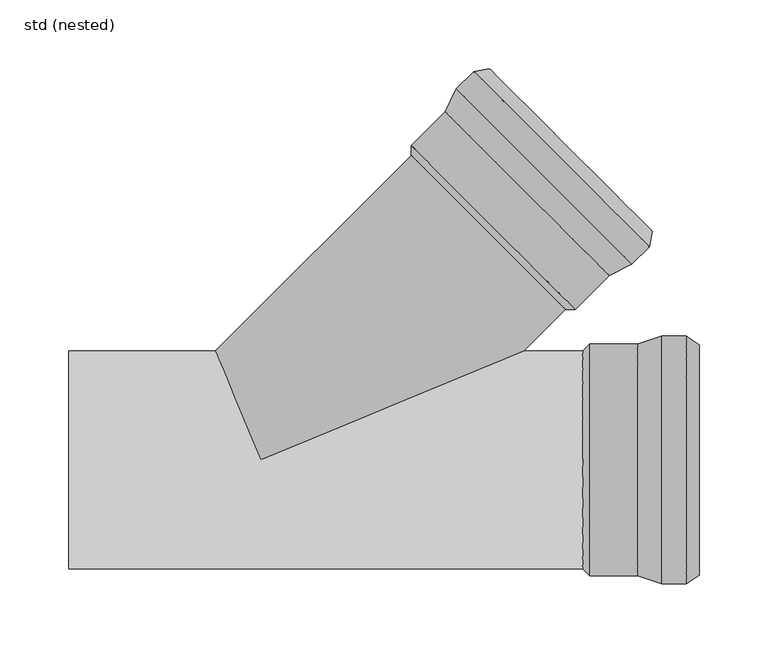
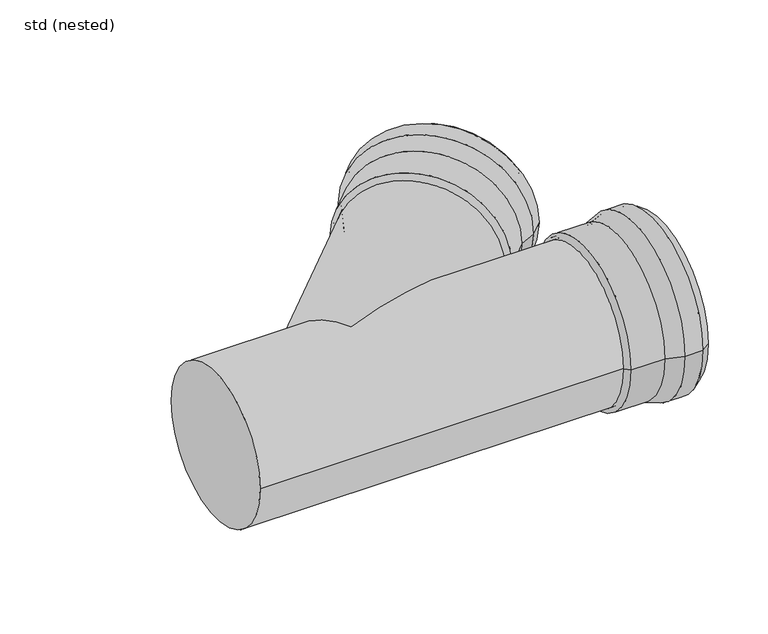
"""IFC4 building model written with IfcOpenShell, lengths in millimetres: pipe fitting geometry, ZZZ_do not use_PIF_ST_UN_GM-X single branch_ACO : std (nested)."""

from ifc_helpers import new_model, si_unit, frame, origin, place, context, project, spatial, polyline, circle_curve, ellipse_curve, source, transform, mapped, element, save
from ifc_brep_helpers import plane_surface, cylinder_surface, revolved_surface, advanced_brep


def std_nested_c3804b22(model_context):
    return source(origin(), model_context, "Body", "AdvancedBrep", [
        advanced_brep(
        [(292.5, -90.5, 0.0), (292.5, 90.5, 0.0), (310.5, 90.5, 0.0), (310.5, -90.5, 0.0), (275.0, -84.5, 0.0), (275.0, 84.5, 0.0), (320.0, 84.0, 0.0), (320.0, -84.0, 0.0), (240.0, -84.5, 0.0), (240.0, 84.5, 0.0), (235.0, -79.5, 0.0), (235.0, 79.5, 0.0), (240.0, -79.5, 0.0), (240.0, 79.5, 0.0), (275.4166667, -82.0, 0.0), (275.4166667, 82.0, 0.0), (240.0, 82.0, 0.0), (240.0, -82.0, 0.0), (292.9166667, -88.0, 0.0), (292.9166667, 88.0, 0.0), (309.7265906, -88.0, 0.0), (309.7265906, 88.0, 0.0), (318.5882902, -81.9367318, 0.0), (318.5882902, 81.9367318, 0.0)],
        [
            (0, 1, circle_curve(frame((292.5, 0.0, 0.0), z_axis=(1.0, 0.0, 0.0), x_axis=(0.0, 1.0, 0.0)), 90.5)),
            (1, 2),
            (2, 3, circle_curve(frame((310.5, 0.0, 0.0), z_axis=(-1.0, 0.0, 0.0), x_axis=(0.0, 1.0, 0.0)), 90.5)),
            (3, 0),
            (1, 0, circle_curve(frame((292.5, 0.0, 0.0), z_axis=(1.0, 0.0, 0.0), x_axis=(0.0, 1.0, 0.0)), 90.5)),
            (3, 2, circle_curve(frame((310.5, 0.0, 0.0), z_axis=(-1.0, 0.0, 0.0), x_axis=(0.0, 1.0, 0.0)), 90.5)),
            (4, 5, circle_curve(frame((275.0, 0.0, 0.0), z_axis=(1.0, 0.0, 0.0), x_axis=(0.0, 1.0, 0.0)), 84.5)),
            (5, 1),
            (0, 4),
            (5, 4, circle_curve(frame((275.0, 0.0, 0.0), z_axis=(1.0, 0.0, 0.0), x_axis=(0.0, 1.0, 0.0)), 84.5)),
            (2, 6),
            (6, 7, circle_curve(frame((320.0, 0.0, 0.0), z_axis=(-1.0, 0.0, 0.0), x_axis=(0.0, 1.0, 0.0)), 84.0)),
            (7, 3),
            (7, 6, circle_curve(frame((320.0, 0.0, 0.0), z_axis=(-1.0, 0.0, 0.0), x_axis=(0.0, 1.0, 0.0)), 84.0)),
            (8, 9, circle_curve(frame((240.0, 0.0, 0.0), z_axis=(1.0, 0.0, 0.0), x_axis=(0.0, 1.0, 0.0)), 84.5)),
            (9, 5),
            (4, 8),
            (9, 8, circle_curve(frame((240.0, 0.0, 0.0), z_axis=(1.0, 0.0, 0.0), x_axis=(0.0, 1.0, 0.0)), 84.5)),
            (10, 11, circle_curve(frame((235.0, 0.0, 0.0), z_axis=(1.0, 0.0, 0.0), x_axis=(0.0, 1.0, 0.0)), 79.5)),
            (11, 9),
            (8, 10),
            (11, 10, circle_curve(frame((235.0, 0.0, 0.0), z_axis=(1.0, 0.0, 0.0), x_axis=(0.0, 1.0, 0.0)), 79.5)),
            (12, 13, circle_curve(frame((240.0, 0.0, 0.0), z_axis=(1.0, 0.0, 0.0), x_axis=(0.0, 1.0, 0.0)), 79.5)),
            (13, 11),
            (10, 12),
            (13, 12, circle_curve(frame((240.0, 0.0, 0.0), z_axis=(1.0, 0.0, 0.0), x_axis=(0.0, 1.0, 0.0)), 79.5)),
            (14, 15, circle_curve(frame((275.4166667, 0.0, 0.0), z_axis=(1.0, 0.0, 0.0), x_axis=(0.0, 1.0, 0.0)), 82.0)),
            (15, 16),
            (16, 17, circle_curve(frame((240.0, 0.0, 0.0), z_axis=(-1.0, 0.0, 0.0), x_axis=(0.0, 1.0, 0.0)), 82.0)),
            (17, 14),
            (15, 14, circle_curve(frame((275.4166667, 0.0, 0.0), z_axis=(1.0, 0.0, 0.0), x_axis=(0.0, 1.0, 0.0)), 82.0)),
            (17, 16, circle_curve(frame((240.0, 0.0, 0.0), z_axis=(-1.0, 0.0, 0.0), x_axis=(0.0, 1.0, 0.0)), 82.0)),
            (18, 19, circle_curve(frame((292.9166667, 0.0, 0.0), z_axis=(1.0, 0.0, 0.0), x_axis=(0.0, 1.0, 0.0)), 88.0)),
            (19, 15),
            (14, 18),
            (19, 18, circle_curve(frame((292.9166667, 0.0, 0.0), z_axis=(1.0, 0.0, 0.0), x_axis=(0.0, 1.0, 0.0)), 88.0)),
            (20, 21, circle_curve(frame((309.7265906, 0.0, 0.0), z_axis=(1.0, 0.0, 0.0), x_axis=(0.0, 1.0, 0.0)), 88.0)),
            (21, 19),
            (18, 20),
            (21, 20, circle_curve(frame((309.7265906, 0.0, 0.0), z_axis=(1.0, 0.0, 0.0), x_axis=(0.0, 1.0, 0.0)), 88.0)),
            (22, 23, circle_curve(frame((318.5882902, 0.0, 0.0), z_axis=(1.0, 0.0, 0.0), x_axis=(0.0, 1.0, 0.0)), 81.9367318)),
            (23, 21),
            (20, 22),
            (23, 22, circle_curve(frame((318.5882902, 0.0, 0.0), z_axis=(1.0, 0.0, 0.0), x_axis=(0.0, 1.0, 0.0)), 81.9367318)),
            (6, 23),
            (22, 7),
            (16, 13),
            (12, 17),
        ],
        [
            cylinder_surface(frame((316.6444117, 0.0, 0.0), z_axis=(-1.0, 0.0, 0.0), x_axis=(0.0, 1.0, 0.0)), 90.5),
            revolved_surface(polyline([(292.5, 90.5, 0.0), (275.0, 84.5, 0.0)]), (316.6444117, 0.0, 0.0), (-1.0, 0.0, 0.0)),
            revolved_surface(polyline([(320.0, 84.0, 0.0), (310.5, 90.5, 0.0)]), (316.6444117, 0.0, 0.0), (-1.0, 0.0, 0.0)),
            cylinder_surface(frame((316.6444117, 0.0, 0.0), z_axis=(-1.0, 0.0, 0.0), x_axis=(0.0, 1.0, 0.0)), 84.5),
            revolved_surface(polyline([(240.0, 84.5, 0.0), (235.0, 79.5, 0.0)]), (316.6444117, 0.0, 0.0), (-1.0, 0.0, 0.0)),
            revolved_surface(polyline([(235.0, 79.5, 0.0), (240.0, 79.5, 0.0)]), (316.6444117, 0.0, 0.0), (-1.0, 0.0, 0.0)),
            revolved_surface(polyline([(240.0, 82.0, 0.0), (275.4166667, 82.0, 0.0)]), (316.6444117, 0.0, 0.0), (-1.0, 0.0, 0.0)),
            revolved_surface(polyline([(275.4166667, 82.0, 0.0), (292.9166667, 88.0, 0.0)]), (316.6444117, 0.0, 0.0), (-1.0, 0.0, 0.0)),
            revolved_surface(polyline([(292.9166667, 88.0, 0.0), (309.7265906, 88.0, 0.0)]), (316.6444117, 0.0, 0.0), (-1.0, 0.0, 0.0)),
            revolved_surface(polyline([(309.7265906, 88.0, 0.0), (318.5882902, 81.9367318, 0.0)]), (316.6444117, 0.0, 0.0), (-1.0, 0.0, 0.0)),
            revolved_surface(polyline([(318.5882902, 81.9367318, 0.0), (320.0, 84.0, 0.0)]), (316.6444117, 0.0, 0.0), (-1.0, 0.0, 0.0)),
            plane_surface(frame((240.0, 0.0, 0.0), z_axis=(1.0, 0.0, 0.0), x_axis=(0.0, 1.0, 0.0))),
        ],
        [
            (0, [[1, 2, 3, 4]]),
            (0, [[5, -4, 6, -2]]),
            (1, [[7, 8, -1, 9]]),
            (1, [[10, -9, -5, -8]]),
            (2, [[-3, 11, 12, 13]]),
            (2, [[-6, -13, 14, -11]]),
            (3, [[15, 16, -7, 17]]),
            (3, [[18, -17, -10, -16]]),
            (4, [[19, 20, -15, 21]]),
            (4, [[22, -21, -18, -20]]),
            (5, [[23, 24, -19, 25]]),
            (5, [[26, -25, -22, -24]]),
            (6, [[27, 28, 29, 30]]),
            (6, [[31, -30, 32, -28]]),
            (7, [[33, 34, -27, 35]]),
            (7, [[36, -35, -31, -34]]),
            (8, [[37, 38, -33, 39]]),
            (8, [[40, -39, -36, -38]]),
            (9, [[41, 42, -37, 43]]),
            (9, [[44, -43, -40, -42]]),
            (10, [[-12, 45, -41, 46]]),
            (10, [[-14, -46, -44, -45]]),
            (11, [[-29, 47, -23, 48]]),
            (11, [[-32, -48, -26, -47]]),
        ],
    ),
        advanced_brep(
        [(270.8218972, 142.8355698, 0.0), (142.8355698, 270.8218972, 0.0), (155.5634919, 283.5498193, 0.0), (283.5498193, 155.5634919, 0.0), (254.2048878, 134.7038418, 0.0), (134.7038418, 254.2048878, 0.0), (166.8772004, 285.6711396, 0.0), (285.6711396, 166.8772004, 0.0), (229.4561505, 109.9551045, 0.0), (109.9551045, 229.4561505, 0.0), (222.3850827, 109.9551045, 0.0), (109.9551045, 222.3850827, 0.0), (225.9206166, 113.4906384, 0.0), (113.4906384, 225.9206166, 0.0), (252.7317487, 136.7662366, 0.0), (136.7662366, 252.7317487, 0.0), (111.7228714, 227.6883835, 0.0), (227.6883835, 111.7228714, 0.0), (269.3487581, 144.8979646, 0.0), (144.8979646, 269.3487581, 0.0), (281.2351693, 156.7843758, 0.0), (156.7843758, 281.2351693, 0.0), (283.2139591, 167.3379217, 0.0), (167.3379217, 283.2139591, 0.0)],
        [
            (0, 1, circle_curve(frame((206.8287335, 206.8287335, 0.0), z_axis=(0.7071067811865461, 0.7071067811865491, 0.0), x_axis=(-0.7071067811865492, 0.7071067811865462, 0.0)), 90.5)),
            (1, 2),
            (2, 3, circle_curve(frame((219.5566556, 219.5566556, 0.0), z_axis=(-0.7071067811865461, -0.7071067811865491, 0.0), x_axis=(-0.7071067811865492, 0.7071067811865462, 0.0)), 90.5)),
            (3, 0),
            (1, 0, circle_curve(frame((206.8287335, 206.8287335, 0.0), z_axis=(0.7071067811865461, 0.7071067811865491, 0.0), x_axis=(-0.7071067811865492, 0.7071067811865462, 0.0)), 90.5)),
            (3, 2, circle_curve(frame((219.5566556, 219.5566556, 0.0), z_axis=(-0.7071067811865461, -0.7071067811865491, 0.0), x_axis=(-0.7071067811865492, 0.7071067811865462, 0.0)), 90.5)),
            (4, 5, circle_curve(frame((194.4543648, 194.4543648, 0.0), z_axis=(0.7071067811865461, 0.7071067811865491, 0.0), x_axis=(-0.7071067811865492, 0.7071067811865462, 0.0)), 84.5)),
            (5, 1),
            (0, 4),
            (5, 4, circle_curve(frame((194.4543648, 194.4543648, 0.0), z_axis=(0.7071067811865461, 0.7071067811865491, 0.0), x_axis=(-0.7071067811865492, 0.7071067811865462, 0.0)), 84.5)),
            (2, 6),
            (6, 7, circle_curve(frame((226.27417, 226.27417, 0.0), z_axis=(-0.7071067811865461, -0.7071067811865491, 0.0), x_axis=(-0.7071067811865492, 0.7071067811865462, 0.0)), 84.0)),
            (7, 3),
            (7, 6, circle_curve(frame((226.27417, 226.27417, 0.0), z_axis=(-0.7071067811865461, -0.7071067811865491, 0.0), x_axis=(-0.7071067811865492, 0.7071067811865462, 0.0)), 84.0)),
            (8, 9, circle_curve(frame((169.7056275, 169.7056275, 0.0), z_axis=(0.7071067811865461, 0.7071067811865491, 0.0), x_axis=(-0.7071067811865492, 0.7071067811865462, 0.0)), 84.5)),
            (9, 5),
            (4, 8),
            (9, 8, circle_curve(frame((169.7056275, 169.7056275, 0.0), z_axis=(0.7071067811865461, 0.7071067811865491, 0.0), x_axis=(-0.7071067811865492, 0.7071067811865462, 0.0)), 84.5)),
            (10, 11, circle_curve(frame((166.1700936, 166.1700936, 0.0), z_axis=(0.7071067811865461, 0.7071067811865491, 0.0), x_axis=(-0.7071067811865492, 0.7071067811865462, 0.0)), 79.5)),
            (11, 9),
            (8, 10),
            (11, 10, circle_curve(frame((166.1700936, 166.1700936, 0.0), z_axis=(0.7071067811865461, 0.7071067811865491, 0.0), x_axis=(-0.7071067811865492, 0.7071067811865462, 0.0)), 79.5)),
            (12, 13, circle_curve(frame((169.7056275, 169.7056275, 0.0), z_axis=(0.7071067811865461, 0.7071067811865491, 0.0), x_axis=(-0.7071067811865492, 0.7071067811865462, 0.0)), 79.5)),
            (13, 11),
            (10, 12),
            (13, 12, circle_curve(frame((169.7056275, 169.7056275, 0.0), z_axis=(0.7071067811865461, 0.7071067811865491, 0.0), x_axis=(-0.7071067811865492, 0.7071067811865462, 0.0)), 79.5)),
            (14, 15, circle_curve(frame((194.7489927, 194.7489927, 0.0), z_axis=(0.7071067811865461, 0.7071067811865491, 0.0), x_axis=(-0.7071067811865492, 0.7071067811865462, 0.0)), 82.0)),
            (15, 16),
            (16, 17, circle_curve(frame((169.7056275, 169.7056275, 0.0), z_axis=(-0.7071067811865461, -0.7071067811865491, 0.0), x_axis=(-0.7071067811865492, 0.7071067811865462, 0.0)), 82.0)),
            (17, 14),
            (15, 14, circle_curve(frame((194.7489927, 194.7489927, 0.0), z_axis=(0.7071067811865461, 0.7071067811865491, 0.0), x_axis=(-0.7071067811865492, 0.7071067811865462, 0.0)), 82.0)),
            (17, 16, circle_curve(frame((169.7056275, 169.7056275, 0.0), z_axis=(-0.7071067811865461, -0.7071067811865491, 0.0), x_axis=(-0.7071067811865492, 0.7071067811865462, 0.0)), 82.0)),
            (18, 19, circle_curve(frame((207.1233613, 207.1233613, 0.0), z_axis=(0.7071067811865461, 0.7071067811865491, 0.0), x_axis=(-0.7071067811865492, 0.7071067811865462, 0.0)), 88.0)),
            (19, 15),
            (14, 18),
            (19, 18, circle_curve(frame((207.1233613, 207.1233613, 0.0), z_axis=(0.7071067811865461, 0.7071067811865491, 0.0), x_axis=(-0.7071067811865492, 0.7071067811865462, 0.0)), 88.0)),
            (20, 21, circle_curve(frame((219.0097725, 219.0097725, 0.0), z_axis=(0.7071067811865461, 0.7071067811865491, 0.0), x_axis=(-0.7071067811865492, 0.7071067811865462, 0.0)), 88.0)),
            (21, 19),
            (18, 20),
            (21, 20, circle_curve(frame((219.0097725, 219.0097725, 0.0), z_axis=(0.7071067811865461, 0.7071067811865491, 0.0), x_axis=(-0.7071067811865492, 0.7071067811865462, 0.0)), 88.0)),
            (22, 23, circle_curve(frame((225.2759404, 225.2759404, 0.0), z_axis=(0.7071067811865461, 0.7071067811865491, 0.0), x_axis=(-0.7071067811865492, 0.7071067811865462, 0.0)), 81.9367318)),
            (23, 21),
            (20, 22),
            (23, 22, circle_curve(frame((225.2759404, 225.2759404, 0.0), z_axis=(0.7071067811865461, 0.7071067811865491, 0.0), x_axis=(-0.7071067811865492, 0.7071067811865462, 0.0)), 81.9367318)),
            (6, 23),
            (22, 7),
            (16, 13),
            (12, 17),
        ],
        [
            cylinder_surface(frame((223.9014107, 223.9014107, 0.0), z_axis=(-0.7071067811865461, -0.7071067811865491, 0.0), x_axis=(-0.7071067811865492, 0.7071067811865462, 0.0)), 90.5),
            revolved_surface(polyline([(142.8355698, 270.8218972, 0.0), (134.7038418, 254.2048878, 0.0)]), (223.9014107, 223.9014107, 0.0), (-0.7071067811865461, -0.7071067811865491, 0.0)),
            revolved_surface(polyline([(166.8772004, 285.6711396, 0.0), (155.5634919, 283.5498193, 0.0)]), (223.9014107, 223.9014107, 0.0), (-0.7071067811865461, -0.7071067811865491, 0.0)),
            cylinder_surface(frame((223.9014107, 223.9014107, 0.0), z_axis=(-0.7071067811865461, -0.7071067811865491, 0.0), x_axis=(-0.7071067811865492, 0.7071067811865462, 0.0)), 84.5),
            revolved_surface(polyline([(109.9551045, 229.4561505, 0.0), (109.9551045, 222.3850827, 0.0)]), (223.9014107, 223.9014107, 0.0), (-0.7071067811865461, -0.7071067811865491, 0.0)),
            revolved_surface(polyline([(109.9551044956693, 222.38508270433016, 0.0), (113.49063839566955, 225.92061660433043, 0.0)]), (223.9014107, 223.9014107, 0.0), (-0.7071067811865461, -0.7071067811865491, 0.0)),
            revolved_surface(polyline([(111.72287139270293, 227.68838350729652, 0.0), (136.766236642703, 252.7317487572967, 0.0)]), (223.9014107, 223.9014107, 0.0), (-0.7071067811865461, -0.7071067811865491, 0.0)),
            revolved_surface(polyline([(136.7662366, 252.7317487, 0.0), (144.8979646, 269.3487581, 0.0)]), (223.9014107, 223.9014107, 0.0), (-0.7071067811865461, -0.7071067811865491, 0.0)),
            revolved_surface(polyline([(144.8979645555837, 269.34875804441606, 0.0), (156.78437580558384, 281.2351692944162, 0.0)]), (223.9014107, 223.9014107, 0.0), (-0.7071067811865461, -0.7071067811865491, 0.0)),
            revolved_surface(polyline([(156.7843758, 281.2351693, 0.0), (167.3379217, 283.2139591, 0.0)]), (223.9014107, 223.9014107, 0.0), (-0.7071067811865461, -0.7071067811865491, 0.0)),
            revolved_surface(polyline([(167.3379217, 283.2139591, 0.0), (166.8772004, 285.6711396, 0.0)]), (223.9014107, 223.9014107, 0.0), (-0.7071067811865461, -0.7071067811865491, 0.0)),
            plane_surface(frame((169.7056275, 169.7056275, 0.0), z_axis=(0.7071067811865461, 0.7071067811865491, 0.0), x_axis=(-0.7071067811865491, 0.7071067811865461, 0.0))),
        ],
        [
            (0, [[1, 2, 3, 4]]),
            (0, [[5, -4, 6, -2]]),
            (1, [[7, 8, -1, 9]]),
            (1, [[10, -9, -5, -8]]),
            (2, [[-3, 11, 12, 13]]),
            (2, [[-6, -13, 14, -11]]),
            (3, [[15, 16, -7, 17]]),
            (3, [[18, -17, -10, -16]]),
            (4, [[19, 20, -15, 21]]),
            (4, [[22, -21, -18, -20]]),
            (5, [[23, 24, -19, 25]]),
            (5, [[26, -25, -22, -24]]),
            (6, [[27, 28, 29, 30]]),
            (6, [[31, -30, 32, -28]]),
            (7, [[33, 34, -27, 35]]),
            (7, [[36, -35, -31, -34]]),
            (8, [[37, 38, -33, 39]]),
            (8, [[40, -39, -36, -38]]),
            (9, [[41, 42, -37, 43]]),
            (9, [[44, -43, -40, -42]]),
            (10, [[-12, 45, -41, 46]]),
            (10, [[-14, -46, -44, -45]]),
            (11, [[-29, 47, -23, 48]]),
            (11, [[-32, -48, -26, -47]]),
        ],
    ),
        advanced_brep(
        [(240.0, -79.5, 0.0), (240.0, 79.5, 0.0), (-140.0, -79.5, 0.0), (-140.0, 79.5, 0.0), (-32.9299782, 79.5, 0.0), (0.0, 0.0, -79.5), (191.9299782, 79.5, 0.0), (0.0, 0.0, 79.5), (225.9206166, 113.4906384, 0.0), (113.4906384, 225.9206166, 0.0)],
        [
            (0, 1, circle_curve(frame((240.0, 0.0, 0.0), z_axis=(1.0, 0.0, 0.0), x_axis=(0.0, 1.0, 0.0)), 79.5)),
            (1, 0, circle_curve(frame((240.0, 0.0, 0.0), z_axis=(1.0, 0.0, 0.0), x_axis=(0.0, 1.0, 0.0)), 79.5)),
            (2, 3, circle_curve(frame((-140.0, 0.0, 0.0), z_axis=(-1.0, 0.0, 0.0), x_axis=(0.0, 1.0, 0.0)), 79.5)),
            (3, 2, circle_curve(frame((-140.0, 0.0, 0.0), z_axis=(-1.0, 0.0, 0.0), x_axis=(0.0, 1.0, 0.0)), 79.5)),
            (0, 2),
            (3, 4),
            (4, 5, ellipse_curve(frame((0.0, 0.0, 0.0), z_axis=(-0.9238795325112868, -0.38268343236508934, 0.0), x_axis=(0.38268343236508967, -0.9238795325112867, 0.0)), 86.0501799, 79.5)),
            (5, 6, ellipse_curve(frame((0.0, 0.0, 0.0), z_axis=(0.3826834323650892, -0.9238795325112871, 0.0), x_axis=(0.9238795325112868, 0.3826834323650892, 0.0)), 207.7435114, 79.5)),
            (6, 1),
            (6, 7, ellipse_curve(frame((0.0, 0.0, 0.0), z_axis=(0.3826834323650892, -0.9238795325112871, 0.0), x_axis=(0.9238795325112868, 0.3826834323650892, 0.0)), 207.7435114, 79.5)),
            (7, 4, ellipse_curve(frame((0.0, 0.0, 0.0), z_axis=(-0.9238795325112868, -0.38268343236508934, 0.0), x_axis=(0.38268343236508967, -0.9238795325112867, 0.0)), 86.0501799, 79.5)),
            (8, 9, circle_curve(frame((169.7056275, 169.7056275, 0.0), z_axis=(0.7071067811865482, 0.707106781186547, 0.0), x_axis=(-0.707106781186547, 0.7071067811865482, 0.0)), 79.5)),
            (9, 8, circle_curve(frame((169.7056275, 169.7056275, 0.0), z_axis=(0.7071067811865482, 0.707106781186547, 0.0), x_axis=(-0.707106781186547, 0.7071067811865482, 0.0)), 79.5)),
            (9, 4),
            (6, 8),
        ],
        [
            plane_surface(frame((240.0, 79.5, 0.0), z_axis=(1.0, 0.0, 0.0), x_axis=(0.0, 0.0, 1.0))),
            plane_surface(frame((-140.0, 79.5, 0.0), z_axis=(-1.0, 0.0, 0.0), x_axis=(0.0, 0.0, -1.0))),
            cylinder_surface(frame((-140.0, 0.0, 0.0), z_axis=(1.0, 0.0, 0.0), x_axis=(0.0, 1.0, 0.0)), 79.5),
            plane_surface(frame((169.7056275, 169.7056275, 0.0), z_axis=(0.7071067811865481, 0.7071067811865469, 0.0), x_axis=(0.0, 0.0, 1.0))),
            cylinder_surface(frame((0.0, 0.0, 0.0), z_axis=(-0.7071067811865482, -0.707106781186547, 0.0), x_axis=(-0.707106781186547, 0.7071067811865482, 0.0)), 79.5),
        ],
        [
            (0, [[1, 2]]),
            (1, [[3, 4]]),
            (2, [[-1, 5, -4, 6, 7, 8, 9]]),
            (2, [[-2, -9, 10, 11, -6, -3, -5]]),
            (3, [[12, 13]]),
            (4, [[-13, 14, -11, -10, 15]]),
            (4, [[-12, -15, -8, -7, -14]]),
        ],
    ),
    ])


if __name__ == "__main__":
    model = new_model("IFC4")
    model_context = context("Model", 3, world=origin())
    ifc_project = project(units=[si_unit("LENGTHUNIT", "METRE", prefix="MILLI")], contexts=[model_context])
    site = spatial("IfcSite", under=ifc_project)
    building = spatial("IfcBuilding", under=site)
    placement = place(None, origin())
    std_nested_shape = std_nested_c3804b22(model_context)
    element("IfcPipeFitting", 1, ObjectType="ZZZ_do not use_PIF_ST_UN_GM-X single branch_ACO : std (nested)", at=placement, inside=building, context=model_context, shape_type="MappedRepresentation", body=[
        mapped(std_nested_shape, transform((0.0, 0.0, 0.0), x_axis=(1.0, 0.0, 0.0), y_axis=(0.0, 1.0, 0.0), z_axis=(0.0, 0.0, 1.0))),
    ])
    save(model, "model.ifc")
